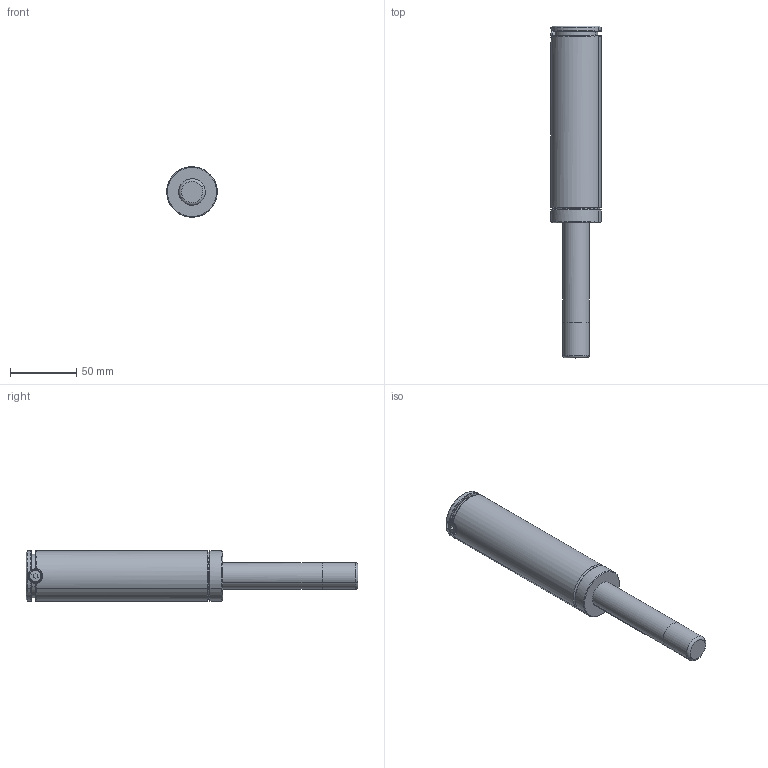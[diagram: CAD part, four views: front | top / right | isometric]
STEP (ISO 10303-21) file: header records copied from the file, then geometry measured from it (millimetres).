
FILE_DESCRIPTION(('CATIA V5 STEP Exchange'),'2;1');
FILE_NAME('C:\Users\Anderj\Desktop\TPSP500.1 FSC38\TPSP500x100.1.stp','2017-06-19T08:36:19+00:00',('none'),('none'),'CATIA Version 5 Release 17 (IN-10)','CATIA V5 STEP AP203','none');
FILE_SCHEMA(('CONFIG_CONTROL_DESIGN'));
Length unit declared in the file: millimetre
Products named in the file (1): TPSP500x100.1
Assembly tree (1 placements, depth 2):
  TPSP500x100.1
    #56
Bounding box: 37.99 x 250 x 37.99 mm (x, y, z)
Volume: 197077 mm3; surface area: 29066.1 mm2
Topology: 3 solids, 5 shells, 120 faces, 287 edges, 174 vertices
Faces by surface type: cylinder 33, torus 32, cone 28, plane 19, bspline 8
Entity records: 4184 total; most frequent: CARTESIAN_POINT 1654, ORIENTED_EDGE 558, DIRECTION 392, EDGE_CURVE 279, AXIS2_PLACEMENT_3D 213, VERTEX_POINT 173, EDGE_LOOP 128, ADVANCED_FACE 120
